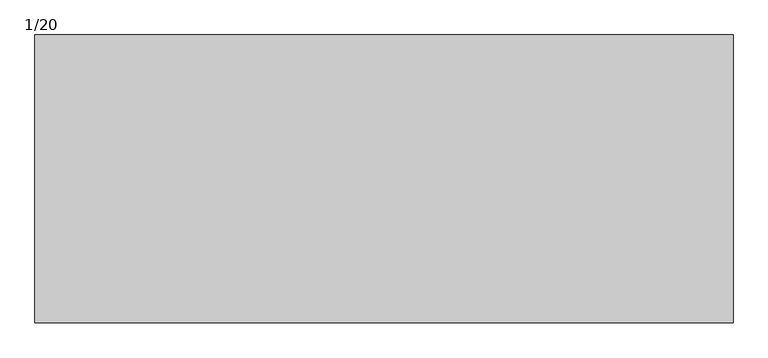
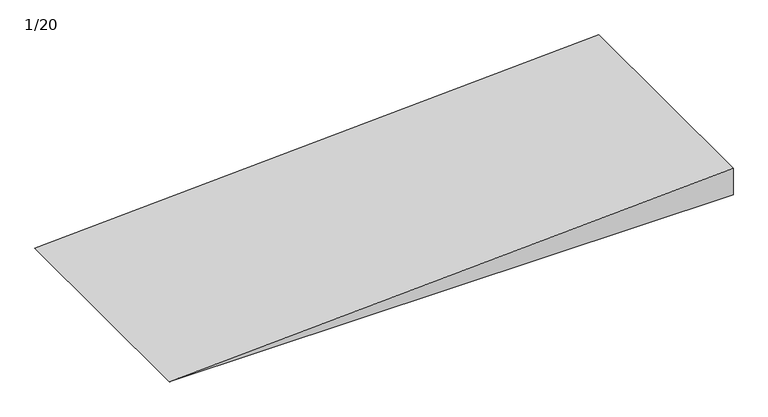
"""IFC4 building model written with IfcOpenShell, lengths in millimetres: ramp geometry, 1/20."""

from ifc_helpers import new_model, si_unit, frame, origin, place, context, project, spatial, polyline, outline, extrude, source, transform, mapped, element, save


def ramp_1_20_5bf82f81(model_context):
    return source(origin(), model_context, "Body", "SweptSolid", [
        extrude(outline(polyline([(0.0199373, 6715.3987464), (-200.0, 2715.0), (-200.0, 6715.3987464), (0.0199373, 6715.3987464)])), frame((0.0, 24625.0, 0.0), z_axis=(0.0, 1.0, 0.0), x_axis=(0.0, 0.0, 1.0)), (0.0, 0.0, 1.0), 1650.0),
    ])


if __name__ == "__main__":
    model = new_model("IFC4")
    model_context = context("Model", 3, world=origin())
    ifc_project = project(units=[si_unit("LENGTHUNIT", "METRE", prefix="MILLI")], contexts=[model_context])
    site = spatial("IfcSite", under=ifc_project)
    building = spatial("IfcBuilding", under=site)
    placement = place(None, origin())
    ramp_1_20_shape = ramp_1_20_5bf82f81(model_context)
    element("IfcRamp", 1, ObjectType="1/20", at=placement, inside=building, context=model_context, shape_type="MappedRepresentation", body=[
        mapped(ramp_1_20_shape, transform((0.0, 0.0, 0.0), x_axis=(1.0, 0.0, 0.0), y_axis=(0.0, 1.0, 0.0), z_axis=(0.0, 0.0, 1.0))),
    ])
    save(model, "model.ifc")
